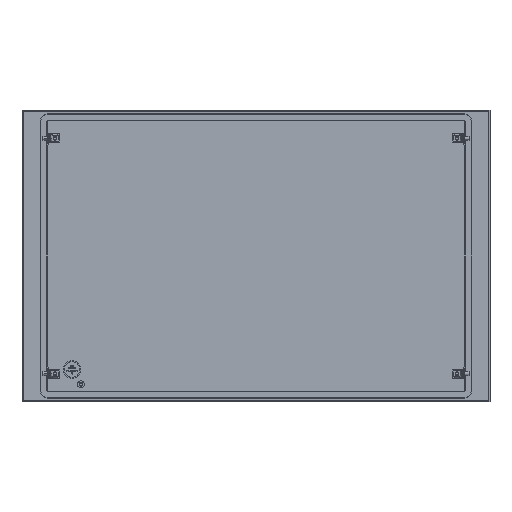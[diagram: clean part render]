
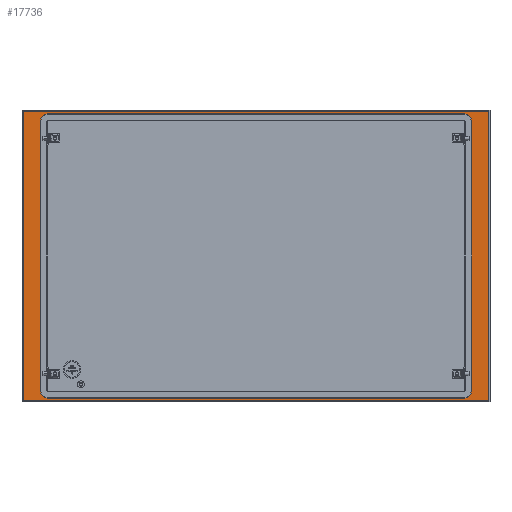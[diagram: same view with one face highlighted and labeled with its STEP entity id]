
A CAD part, left-side view. The second image highlights one B-rep face of the part: STEP entity #17736.
In plain terms, the highlighted planar face has unit normal (-1, 0, 0).
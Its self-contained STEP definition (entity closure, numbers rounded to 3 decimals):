
#289 = FACE_BOUND ( 'NONE', #12508, .T. ) ;
#579 = CARTESIAN_POINT ( 'NONE',  ( -2., 395.5, -246. ) ) ;
#763 = CARTESIAN_POINT ( 'NONE',  ( -2., -366.5, 228. ) ) ;
#1333 = VECTOR ( 'NONE', #7325, 1000. ) ;
#1585 = LINE ( 'NONE', #15635, #5199 ) ;
#1705 = CARTESIAN_POINT ( 'NONE',  ( -2., 395.5, 246. ) ) ;
#1723 = EDGE_CURVE ( 'NONE', #2082, #19185, #3194, .T. ) ;
#2082 = VERTEX_POINT ( 'NONE', #16697 ) ;
#2234 = AXIS2_PLACEMENT_3D ( 'NONE', #18789, #10881, #2851 ) ;
#2250 = DIRECTION ( 'NONE',  ( 1., 0., 0. ) ) ;
#2259 = LINE ( 'NONE', #21648, #2473 ) ;
#2473 = VECTOR ( 'NONE', #4163, 1000. ) ;
#2519 = EDGE_CURVE ( 'NONE', #22057, #23267, #19928, .T. ) ;
#2671 = DIRECTION ( 'NONE',  ( 0., 1., 0. ) ) ;
#2756 = DIRECTION ( 'NONE',  ( 0., 0., -1. ) ) ;
#2851 = DIRECTION ( 'NONE',  ( 0., -1., 0. ) ) ;
#3194 = LINE ( 'NONE', #10983, #11808 ) ;
#3510 = AXIS2_PLACEMENT_3D ( 'NONE', #19016, #20681, #12781 ) ;
#3855 = VECTOR ( 'NONE', #15525, 1000. ) ;
#4022 = DIRECTION ( 'NONE',  ( 0., 0., -1. ) ) ;
#4038 = CARTESIAN_POINT ( 'NONE',  ( -2., 366.5, -228. ) ) ;
#4163 = DIRECTION ( 'NONE',  ( 0., 1., 0. ) ) ;
#4351 = DIRECTION ( 'NONE',  ( 0., -1., 0. ) ) ;
#4412 = EDGE_CURVE ( 'NONE', #19185, #24263, #2259, .T. ) ;
#4483 = CARTESIAN_POINT ( 'NONE',  ( -2., -352.5, -228. ) ) ;
#4515 = EDGE_CURVE ( 'NONE', #6128, #23267, #10181, .T. ) ;
#5199 = VECTOR ( 'NONE', #19438, 1000. ) ;
#5432 = LINE ( 'NONE', #7578, #3855 ) ;
#5848 = ORIENTED_EDGE ( 'NONE', *, *, #18903, .T. ) ;
#5886 = CARTESIAN_POINT ( 'NONE',  ( -2., -366.5, -228. ) ) ;
#5917 = DIRECTION ( 'NONE',  ( 0., 0., 1. ) ) ;
#5977 = ORIENTED_EDGE ( 'NONE', *, *, #24360, .T. ) ;
#6049 = DIRECTION ( 'NONE',  ( 1., 0., 0. ) ) ;
#6128 = VERTEX_POINT ( 'NONE', #4038 ) ;
#6702 = AXIS2_PLACEMENT_3D ( 'NONE', #19732, #2250, #4022 ) ;
#6890 = ORIENTED_EDGE ( 'NONE', *, *, #9345, .F. ) ;
#7325 = DIRECTION ( 'NONE',  ( 0., 0., -1. ) ) ;
#7578 = CARTESIAN_POINT ( 'NONE',  ( -2., -352.5, -242. ) ) ;
#7744 = CIRCLE ( 'NONE', #11031, 14. ) ;
#7896 = ORIENTED_EDGE ( 'NONE', *, *, #2519, .F. ) ;
#8071 = PLANE ( 'NONE',  #11128 ) ;
#8216 = ORIENTED_EDGE ( 'NONE', *, *, #1723, .T. ) ;
#8555 = DIRECTION ( 'NONE',  ( 1., 0., 0. ) ) ;
#8814 = EDGE_CURVE ( 'NONE', #10720, #9869, #5432, .T. ) ;
#9119 = ORIENTED_EDGE ( 'NONE', *, *, #24125, .T. ) ;
#9345 = EDGE_CURVE ( 'NONE', #18079, #22057, #12629, .T. ) ;
#9869 = VERTEX_POINT ( 'NONE', #21495 ) ;
#10181 = LINE ( 'NONE', #14398, #22841 ) ;
#10720 = VERTEX_POINT ( 'NONE', #24106 ) ;
#10881 = DIRECTION ( 'NONE',  ( -1., 0., 0. ) ) ;
#10983 = CARTESIAN_POINT ( 'NONE',  ( -2., -395.5, 0. ) ) ;
#11031 = AXIS2_PLACEMENT_3D ( 'NONE', #4483, #8555, #4351 ) ;
#11043 = CARTESIAN_POINT ( 'NONE',  ( -2., -395.5, 246. ) ) ;
#11128 = AXIS2_PLACEMENT_3D ( 'NONE', #23671, #6049, #5917 ) ;
#11808 = VECTOR ( 'NONE', #18760, 1000. ) ;
#12508 = EDGE_LOOP ( 'NONE', ( #23359, #9119, #18421, #20856, #5848, #18268, #7896, #6890 ) ) ;
#12629 = LINE ( 'NONE', #18355, #14626 ) ;
#12781 = DIRECTION ( 'NONE',  ( 0., 0., 1. ) ) ;
#13250 = CIRCLE ( 'NONE', #2234, 14. ) ;
#13335 = CARTESIAN_POINT ( 'NONE',  ( -2., -352.5, 242. ) ) ;
#13957 = CARTESIAN_POINT ( 'NONE',  ( -2., 366.5, 228. ) ) ;
#14044 = EDGE_CURVE ( 'NONE', #22056, #18079, #13250, .T. ) ;
#14398 = CARTESIAN_POINT ( 'NONE',  ( -2., 366.5, -228. ) ) ;
#14626 = VECTOR ( 'NONE', #2671, 1000. ) ;
#15073 = VECTOR ( 'NONE', #2756, 1000. ) ;
#15266 = CARTESIAN_POINT ( 'NONE',  ( -2., 395.5, 0. ) ) ;
#15414 = EDGE_CURVE ( 'NONE', #24711, #10720, #7744, .T. ) ;
#15525 = DIRECTION ( 'NONE',  ( 0., 1., 0. ) ) ;
#15635 = CARTESIAN_POINT ( 'NONE',  ( -2., 0., -246. ) ) ;
#16425 = CARTESIAN_POINT ( 'NONE',  ( -2., -366.5, 0. ) ) ;
#16697 = CARTESIAN_POINT ( 'NONE',  ( -2., -395.5, -246. ) ) ;
#16904 = ORIENTED_EDGE ( 'NONE', *, *, #17535, .T. ) ;
#17535 = EDGE_CURVE ( 'NONE', #24263, #18951, #24337, .T. ) ;
#17736 = ADVANCED_FACE ( 'NONE', ( #19832, #289 ), #8071, .F. ) ;
#17982 = EDGE_LOOP ( 'NONE', ( #8216, #23731, #16904, #5977 ) ) ;
#18079 = VERTEX_POINT ( 'NONE', #13335 ) ;
#18268 = ORIENTED_EDGE ( 'NONE', *, *, #4515, .T. ) ;
#18355 = CARTESIAN_POINT ( 'NONE',  ( -2., -352.5, 242. ) ) ;
#18421 = ORIENTED_EDGE ( 'NONE', *, *, #15414, .T. ) ;
#18760 = DIRECTION ( 'NONE',  ( 0., 0., 1. ) ) ;
#18789 = CARTESIAN_POINT ( 'NONE',  ( -2., -352.5, 228. ) ) ;
#18903 = EDGE_CURVE ( 'NONE', #9869, #6128, #25042, .T. ) ;
#18951 = VERTEX_POINT ( 'NONE', #579 ) ;
#19016 = CARTESIAN_POINT ( 'NONE',  ( -2., 352.5, 228. ) ) ;
#19185 = VERTEX_POINT ( 'NONE', #11043 ) ;
#19438 = DIRECTION ( 'NONE',  ( 0., -1., 0. ) ) ;
#19732 = CARTESIAN_POINT ( 'NONE',  ( -2., 352.5, -228. ) ) ;
#19832 = FACE_OUTER_BOUND ( 'NONE', #17982, .T. ) ;
#19928 = CIRCLE ( 'NONE', #3510, 14. ) ;
#20232 = LINE ( 'NONE', #16425, #15073 ) ;
#20681 = DIRECTION ( 'NONE',  ( -1., 0., 0. ) ) ;
#20856 = ORIENTED_EDGE ( 'NONE', *, *, #8814, .T. ) ;
#21495 = CARTESIAN_POINT ( 'NONE',  ( -2., 352.5, -242. ) ) ;
#21648 = CARTESIAN_POINT ( 'NONE',  ( -2., 0., 246. ) ) ;
#22056 = VERTEX_POINT ( 'NONE', #763 ) ;
#22057 = VERTEX_POINT ( 'NONE', #22343 ) ;
#22343 = CARTESIAN_POINT ( 'NONE',  ( -2., 352.5, 242. ) ) ;
#22841 = VECTOR ( 'NONE', #24229, 1000. ) ;
#23267 = VERTEX_POINT ( 'NONE', #13957 ) ;
#23359 = ORIENTED_EDGE ( 'NONE', *, *, #14044, .F. ) ;
#23671 = CARTESIAN_POINT ( 'NONE',  ( -2., 0., 0. ) ) ;
#23731 = ORIENTED_EDGE ( 'NONE', *, *, #4412, .T. ) ;
#24106 = CARTESIAN_POINT ( 'NONE',  ( -2., -352.5, -242. ) ) ;
#24125 = EDGE_CURVE ( 'NONE', #22056, #24711, #20232, .T. ) ;
#24229 = DIRECTION ( 'NONE',  ( 0., 0., 1. ) ) ;
#24263 = VERTEX_POINT ( 'NONE', #1705 ) ;
#24337 = LINE ( 'NONE', #15266, #1333 ) ;
#24360 = EDGE_CURVE ( 'NONE', #18951, #2082, #1585, .T. ) ;
#24711 = VERTEX_POINT ( 'NONE', #5886 ) ;
#25042 = CIRCLE ( 'NONE', #6702, 14. ) ;
